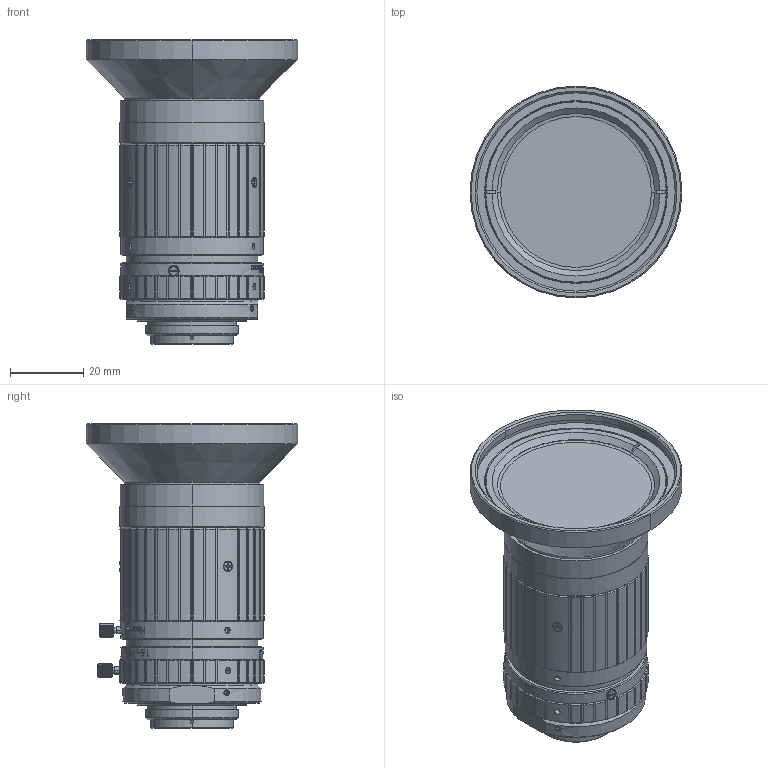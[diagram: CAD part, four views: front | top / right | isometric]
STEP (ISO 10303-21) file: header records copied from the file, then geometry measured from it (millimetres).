
FILE_DESCRIPTION (( 'STEP AP203' ), '1' );
FILE_NAME ('3d_ml-u0817sr-18c_a001.STEP', '2019-03-13T06:00:37', ( '' ), ( '' ), 'SwSTEP 2.0', 'SolidWorks 2014', '' );
FILE_SCHEMA (( 'CONFIG_CONTROL_DESIGN' ));
Products named in the file (1): 3d_ml-u0817sr-18c_a001
Bounding box: 58 x 58 x 83.32 mm (x, y, z)
Volume: 98032.1 mm3; surface area: 17873.7 mm2
Topology: 1 solids, 5 shells, 1236 faces, 3328 edges, 2181 vertices
Faces by surface type: plane 521, cylinder 408, bspline 203, cone 104
Entity records: 59398 total; most frequent: CARTESIAN_POINT 31710, ORIENTED_EDGE 6644, DIRECTION 4334, EDGE_CURVE 3322, VERTEX_POINT 2181, B_SPLINE_CURVE_WITH_KNOTS 1654, AXIS2_PLACEMENT_3D 1650, EDGE_LOOP 1329
